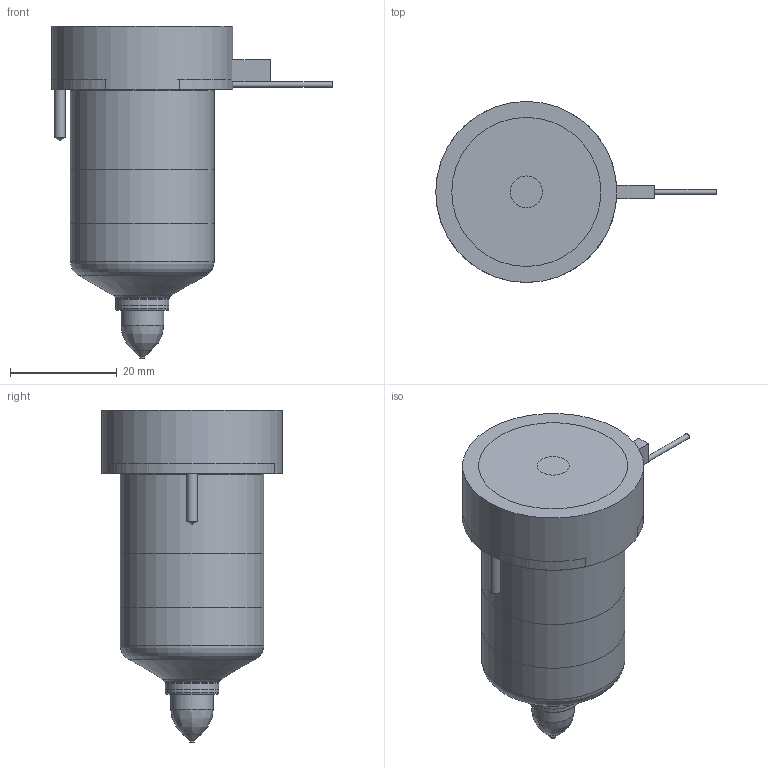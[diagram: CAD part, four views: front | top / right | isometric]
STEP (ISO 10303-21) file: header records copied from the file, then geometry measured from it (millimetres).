
FILE_DESCRIPTION(/* description */ (''),/* implementation_level */ '2;1');
FILE_NAME(/* name */ 'BXTT-BXIT13045-5_200C_b',/* time_stamp */ '2007-01-18T10:00:58+13:00',/* author */ (''),/* organization */ (''),/* preprocessor_version */ 'ST-DEVELOPER v9',/* originating_system */ 'UGS - NX 4.0',/* authorisation */ '');
FILE_SCHEMA (('CONFIG_CONTROL_DESIGN'));
Length unit declared in the file: millimetre
Products named in the file (1): BXTT-BXIT13045-5_200C_b
Bounding box: 52.65 x 34 x 62.33 mm (x, y, z)
Volume: 61982.6 mm3; surface area: 14971.8 mm2
Topology: 6 solids, 6 shells, 81 faces, 156 edges, 98 vertices
Faces by surface type: plane 34, cylinder 25, cone 12, torus 8, bspline 2
Full cylindrical faces by diameter (mm): 0.9 x1, 1 x3, 2 x2, 5.5 x1, 6 x1, 8 x1, 9.61 x1, 10.01 x2, 12.6 x1, 22.2 x1, 27 x2, 34 x1
Entity records: 1989 total; most frequent: CARTESIAN_POINT 408, DIRECTION 334, ORIENTED_EDGE 226, AXIS2_PLACEMENT_3D 149, EDGE_LOOP 128, EDGE_CURVE 113, VERTEX_POINT 92, ADVANCED_FACE 81
